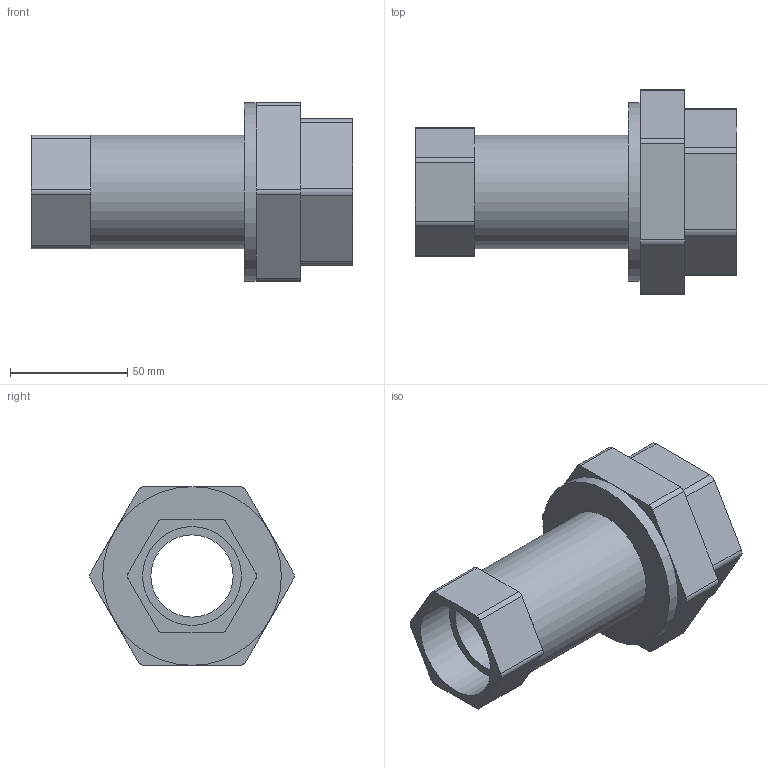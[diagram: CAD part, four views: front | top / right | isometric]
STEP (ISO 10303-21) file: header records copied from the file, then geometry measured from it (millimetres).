
FILE_DESCRIPTION(/* description */ ('VIC VALVE BALANCING LOW LEAD TA SERIES 76X (FPT)-POTABLE WATER'),/* implementation_level */ '2;1');
FILE_NAME(/* name */ 'C:\Files for Export\76X\Victaulic_IPS-HB_Valve ICSS-Low Lead Balancing POTW_TA Series 76X (FPT)\Victaulic_IPS-HB_Valve ICSS-Low Lead Balancing POTW_TA Series 76X (FPT)_1.25 (32).stp',/* time_stamp */ '2024-03-08T10:54:10+01:00',/* author */ ('Vjadhav'),/* organization */ ('Victaulic'),/* preprocessor_version */ 'ST-DEVELOPER v18.1',/* originating_system */ 'Autodesk Inventor 2020',/* authorisation */ '');
FILE_SCHEMA (('AUTOMOTIVE_DESIGN { 1 0 10303 214 3 1 1 }'));
Length unit declared in the file: inch
Products named in the file (1): 76X-01.25
Bounding box: 137.16 x 87.2 x 76.2 mm (x, y, z)
Volume: 217294.4 mm3; surface area: 49474.9 mm2
Topology: 1 solids, 1 shells, 59 faces, 152 edges, 99 vertices
Faces by surface type: plane 36, cylinder 23
Full cylindrical faces by diameter (mm): 35.052 x1, 42.164 x2, 48.26 x1, 76.2 x1
Entity records: 1919 total; most frequent: DIRECTION 335, CARTESIAN_POINT 311, ORIENTED_EDGE 304, EDGE_CURVE 152, AXIS2_PLACEMENT_3D 123, VERTEX_POINT 99, LINE 89, VECTOR 89
